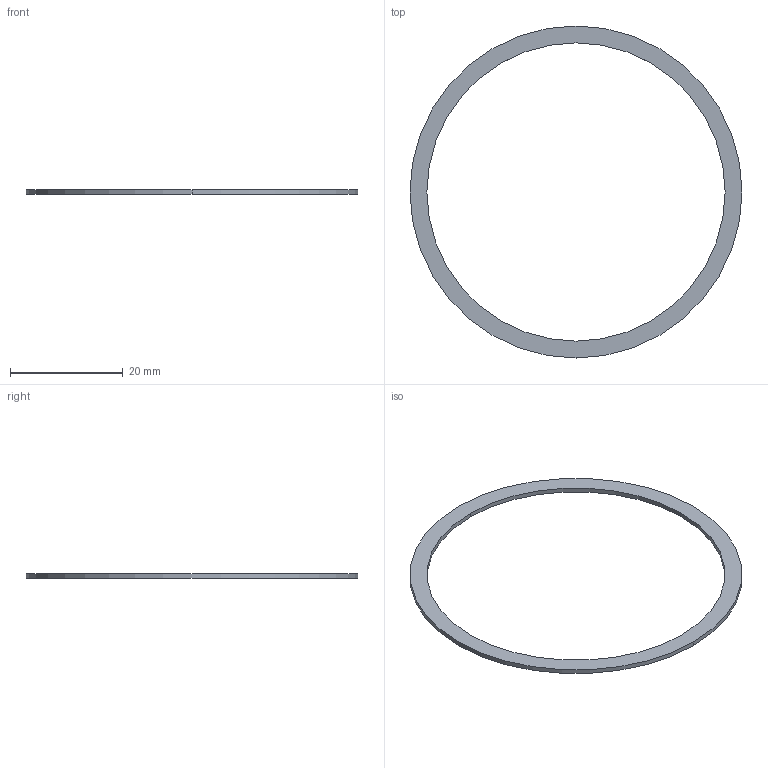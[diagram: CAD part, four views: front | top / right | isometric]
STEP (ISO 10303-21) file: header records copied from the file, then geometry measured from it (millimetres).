
FILE_DESCRIPTION(/* description */ ('VariCAD 2008 3.04 AP-203'),/* implementation_level */ '2;1');
FILE_NAME(/* name */ '0353-30-05',/* time_stamp */ '2009-04-22T22:48:06-06:00',/* author */ (''),/* organization */ (''),/* preprocessor_version */ 'ST-DEVELOPER v12',/* originating_system */ 'VariCAD 2008 3.04; kernel version (20080715)',/* authorisation */ '');
FILE_SCHEMA (('CONFIG_CONTROL_DESIGN'));
Length unit declared in the file: millimetre
Products named in the file (1): Part
Bounding box: 59 x 59 x 0.8 mm (x, y, z)
Volume: 422.2 mm3; surface area: 1337.1 mm2
Topology: 1 solids, 1 shells, 6 faces, 12 edges, 8 vertices
Faces by surface type: cylinder 4, plane 2
Entity records: 214 total; most frequent: DIRECTION 36, CARTESIAN_POINT 28, ORIENTED_EDGE 24, AXIS2_PLACEMENT_3D 16, EDGE_CURVE 12, EDGE_LOOP 8, CIRCLE 8, VERTEX_POINT 8
